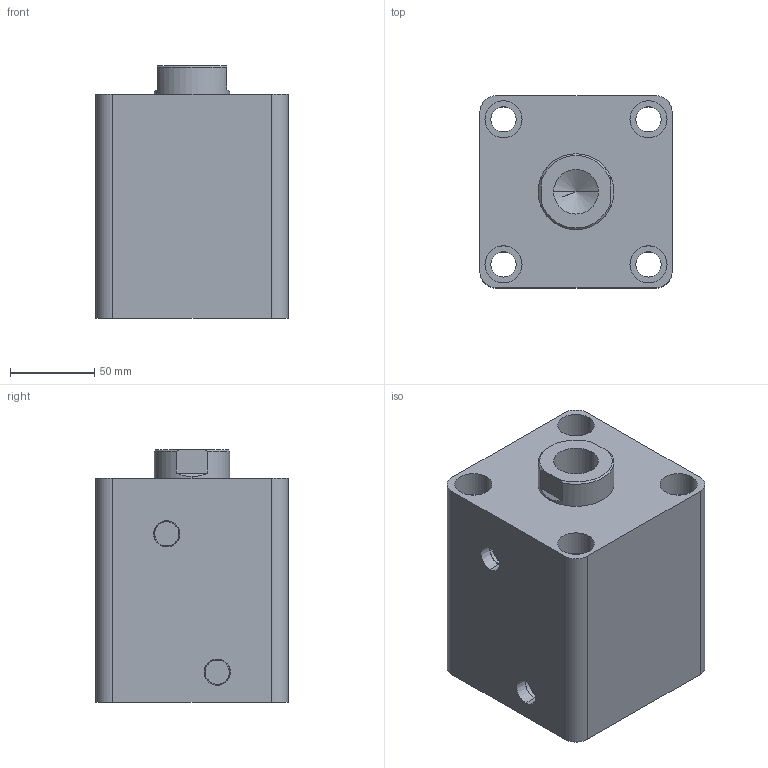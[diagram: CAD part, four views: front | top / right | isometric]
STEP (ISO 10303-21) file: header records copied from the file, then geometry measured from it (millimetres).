
FILE_DESCRIPTION (( 'STEP AP203' ), '1' );
FILE_NAME ('HTB-SD80-55N.STEP', '2019-10-07T08:28:27', ( '微软用户' ), ( '微软中国' ), 'SwSTEP 2.0', 'SolidWorks 2012', '' );
FILE_SCHEMA (( 'CONFIG_CONTROL_DESIGN' ));
Length unit declared in the file: millimetre
Products named in the file (3): HTB-SD80-55N; HTB-SD80-55N活塞杆; HTB-SD80-55掛极
Assembly tree (2 placements, depth 2):
  HTB-SD80-55N
    HTB-SD80-55掛极
    HTB-SD80-55N活塞杆
Bounding box: 114 x 114 x 150 mm (x, y, z)
Volume: 1411406.6 mm3; surface area: 179643.4 mm2
Topology: 2 solids, 2 shells, 83 faces, 184 edges, 119 vertices
Faces by surface type: cylinder 42, plane 27, cone 8, torus 6
Entity records: 2655 total; most frequent: DIRECTION 456, CARTESIAN_POINT 417, ORIENTED_EDGE 364, AXIS2_PLACEMENT_3D 194, EDGE_CURVE 182, VERTEX_POINT 119, EDGE_LOOP 107, CIRCLE 106
